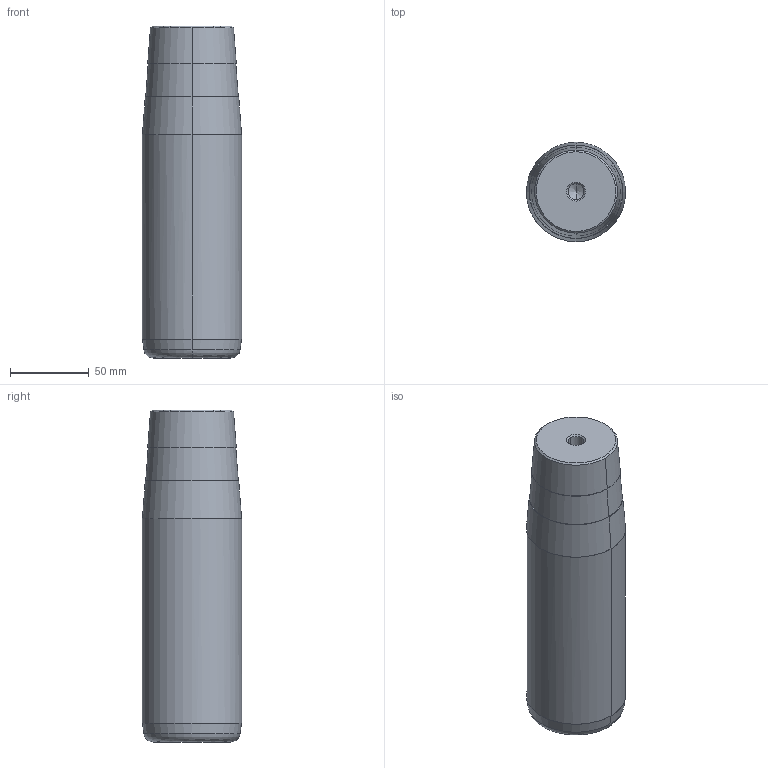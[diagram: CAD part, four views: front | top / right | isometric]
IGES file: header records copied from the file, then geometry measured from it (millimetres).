
Start section: START RECORD GO HERE.
Global section: file name: 722-63x160x211.igs; native system: DASSAULT SYSTEMES CATIA V5 R20 - www.3ds.com; preprocessor: CATIA Version 5 Release 20 ; author: Utente; organization: NB04-ASUS; date: 20210107.202648; units: millimetre
Bounding box: 63 x 63 x 211 mm (x, y, z)
Surface area: 47009.6 mm2 (no closed solid volume)
Topology: 0 solids, 0 shells, 32 faces, 192 edges, 188 vertices
Faces by surface type: revolution 30, plane 2
